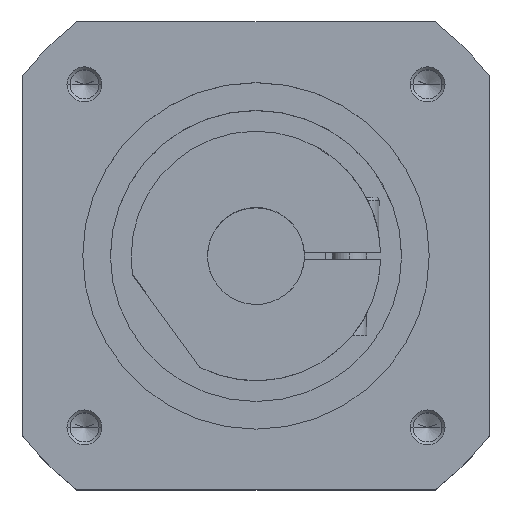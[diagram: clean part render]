
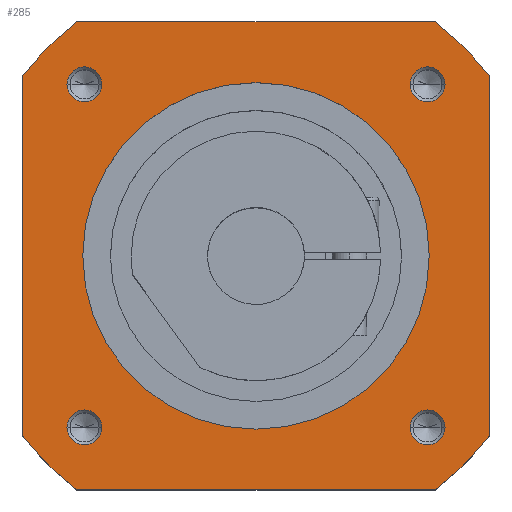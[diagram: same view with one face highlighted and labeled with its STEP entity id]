
A CAD part, top view. The second image highlights one B-rep face of the part: STEP entity #285.
In plain terms, the highlighted planar face has unit normal (0, 0, 1).
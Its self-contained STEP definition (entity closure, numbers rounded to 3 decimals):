
#66=FACE_BOUND('',#669,.T.);
#67=FACE_BOUND('',#670,.T.);
#68=FACE_BOUND('',#671,.T.);
#69=FACE_BOUND('',#672,.T.);
#70=FACE_BOUND('',#673,.T.);
#71=FACE_BOUND('',#674,.T.);
#139=PLANE('',#2934);
#285=ADVANCED_FACE('NONE',(#66,#67,#68,#69,#70,#71),#139,.T.);
#669=EDGE_LOOP('',(#1230,#1231,#1232,#1233,#1234,#1235,#1236,#1237));
#670=EDGE_LOOP('',(#1238,#1239));
#671=EDGE_LOOP('',(#1240,#1241));
#672=EDGE_LOOP('',(#1242,#1243));
#673=EDGE_LOOP('',(#1244,#1245));
#674=EDGE_LOOP('',(#1246,#1247));
#822=CIRCLE('',#2825,2.525);
#825=CIRCLE('',#2831,2.525);
#828=CIRCLE('',#2837,2.525);
#831=CIRCLE('',#2843,2.525);
#875=CIRCLE('',#2923,25.);
#876=CIRCLE('',#2925,42.5);
#877=CIRCLE('',#2926,42.5);
#878=CIRCLE('',#2927,42.5);
#879=CIRCLE('',#2928,42.5);
#880=CIRCLE('',#2929,25.);
#881=CIRCLE('',#2930,2.525);
#882=CIRCLE('',#2931,2.525);
#883=CIRCLE('',#2932,2.525);
#884=CIRCLE('',#2933,2.525);
#1230=ORIENTED_EDGE('',*,*,#2197,.T.);
#1231=ORIENTED_EDGE('',*,*,#2198,.T.);
#1232=ORIENTED_EDGE('',*,*,#2199,.T.);
#1233=ORIENTED_EDGE('',*,*,#2200,.T.);
#1234=ORIENTED_EDGE('',*,*,#2201,.T.);
#1235=ORIENTED_EDGE('',*,*,#2202,.F.);
#1236=ORIENTED_EDGE('',*,*,#2203,.T.);
#1237=ORIENTED_EDGE('',*,*,#2204,.F.);
#1238=ORIENTED_EDGE('',*,*,#2196,.F.);
#1239=ORIENTED_EDGE('',*,*,#2205,.F.);
#1240=ORIENTED_EDGE('',*,*,#2089,.F.);
#1241=ORIENTED_EDGE('',*,*,#2206,.F.);
#1242=ORIENTED_EDGE('',*,*,#2080,.F.);
#1243=ORIENTED_EDGE('',*,*,#2207,.F.);
#1244=ORIENTED_EDGE('',*,*,#2071,.F.);
#1245=ORIENTED_EDGE('',*,*,#2208,.F.);
#1246=ORIENTED_EDGE('',*,*,#2062,.F.);
#1247=ORIENTED_EDGE('',*,*,#2209,.F.);
#1818=VERTEX_POINT('',#4140);
#1820=VERTEX_POINT('',#4144);
#1825=VERTEX_POINT('',#4159);
#1827=VERTEX_POINT('',#4163);
#1832=VERTEX_POINT('',#4178);
#1834=VERTEX_POINT('',#4182);
#1839=VERTEX_POINT('',#4197);
#1841=VERTEX_POINT('',#4201);
#1911=VERTEX_POINT('',#4483);
#1912=VERTEX_POINT('',#4485);
#1913=VERTEX_POINT('',#4489);
#1914=VERTEX_POINT('',#4490);
#1915=VERTEX_POINT('',#4492);
#1916=VERTEX_POINT('',#4494);
#1917=VERTEX_POINT('',#4496);
#1918=VERTEX_POINT('',#4498);
#1919=VERTEX_POINT('',#4500);
#1920=VERTEX_POINT('',#4502);
#2062=EDGE_CURVE('NONE',#1820,#1818,#822,.T.);
#2071=EDGE_CURVE('NONE',#1827,#1825,#825,.T.);
#2080=EDGE_CURVE('NONE',#1834,#1832,#828,.T.);
#2089=EDGE_CURVE('NONE',#1841,#1839,#831,.T.);
#2196=EDGE_CURVE('NONE',#1912,#1911,#875,.T.);
#2197=EDGE_CURVE('NONE',#1913,#1914,#876,.T.);
#2198=EDGE_CURVE('NONE',#1914,#1915,#2536,.T.);
#2199=EDGE_CURVE('NONE',#1915,#1916,#877,.T.);
#2200=EDGE_CURVE('NONE',#1916,#1917,#2537,.T.);
#2201=EDGE_CURVE('NONE',#1917,#1918,#878,.T.);
#2202=EDGE_CURVE('NONE',#1919,#1918,#2538,.T.);
#2203=EDGE_CURVE('NONE',#1919,#1920,#879,.T.);
#2204=EDGE_CURVE('NONE',#1913,#1920,#2539,.T.);
#2205=EDGE_CURVE('NONE',#1911,#1912,#880,.T.);
#2206=EDGE_CURVE('NONE',#1839,#1841,#881,.T.);
#2207=EDGE_CURVE('NONE',#1832,#1834,#882,.T.);
#2208=EDGE_CURVE('NONE',#1825,#1827,#883,.T.);
#2209=EDGE_CURVE('NONE',#1818,#1820,#884,.T.);
#2536=LINE('',#4491,#2719);
#2537=LINE('',#4495,#2720);
#2538=LINE('',#4499,#2721);
#2539=LINE('',#4503,#2722);
#2719=VECTOR('',#3485,1.);
#2720=VECTOR('',#3488,1.);
#2721=VECTOR('',#3491,1.);
#2722=VECTOR('',#3494,1.);
#2825=AXIS2_PLACEMENT_3D('',#4145,#3206,#3207);
#2831=AXIS2_PLACEMENT_3D('',#4164,#3224,#3225);
#2837=AXIS2_PLACEMENT_3D('',#4183,#3242,#3243);
#2843=AXIS2_PLACEMENT_3D('',#4202,#3260,#3261);
#2923=AXIS2_PLACEMENT_3D('',#4486,#3479,#3480);
#2925=AXIS2_PLACEMENT_3D('',#4488,#3483,#3484);
#2926=AXIS2_PLACEMENT_3D('',#4493,#3486,#3487);
#2927=AXIS2_PLACEMENT_3D('',#4497,#3489,#3490);
#2928=AXIS2_PLACEMENT_3D('',#4501,#3492,#3493);
#2929=AXIS2_PLACEMENT_3D('',#4504,#3495,#3496);
#2930=AXIS2_PLACEMENT_3D('',#4505,#3497,#3498);
#2931=AXIS2_PLACEMENT_3D('',#4506,#3499,#3500);
#2932=AXIS2_PLACEMENT_3D('',#4507,#3501,#3502);
#2933=AXIS2_PLACEMENT_3D('',#4508,#3503,#3504);
#2934=AXIS2_PLACEMENT_3D('',#4509,#3505,#3506);
#3206=DIRECTION('',(0.,0.,1.));
#3207=DIRECTION('',(1.,0.,0.));
#3224=DIRECTION('',(0.,0.,1.));
#3225=DIRECTION('',(1.,0.,0.));
#3242=DIRECTION('',(0.,0.,1.));
#3243=DIRECTION('',(1.,0.,0.));
#3260=DIRECTION('',(0.,0.,1.));
#3261=DIRECTION('',(1.,0.,0.));
#3479=DIRECTION('',(0.,0.,1.));
#3480=DIRECTION('',(1.,0.,0.));
#3483=DIRECTION('',(0.,0.,1.));
#3484=DIRECTION('',(1.,0.,0.));
#3485=DIRECTION('',(0.,1.,0.));
#3486=DIRECTION('',(0.,0.,1.));
#3487=DIRECTION('',(1.,0.,0.));
#3488=DIRECTION('',(-1.,0.,0.));
#3489=DIRECTION('',(0.,0.,1.));
#3490=DIRECTION('',(1.,0.,0.));
#3491=DIRECTION('',(0.,1.,0.));
#3492=DIRECTION('',(0.,0.,1.));
#3493=DIRECTION('',(1.,0.,0.));
#3494=DIRECTION('',(-1.,0.,0.));
#3495=DIRECTION('',(0.,0.,1.));
#3496=DIRECTION('',(1.,0.,0.));
#3497=DIRECTION('',(0.,0.,1.));
#3498=DIRECTION('',(1.,0.,0.));
#3499=DIRECTION('',(0.,0.,1.));
#3500=DIRECTION('',(1.,0.,0.));
#3501=DIRECTION('',(0.,0.,1.));
#3502=DIRECTION('',(1.,0.,0.));
#3503=DIRECTION('',(0.,0.,1.));
#3504=DIRECTION('',(1.,0.,0.));
#3505=DIRECTION('',(0.,0.,1.));
#3506=DIRECTION('',(1.,0.,0.));
#4140=CARTESIAN_POINT('',(22.224,24.749,116.));
#4144=CARTESIAN_POINT('',(27.274,24.749,116.));
#4145=CARTESIAN_POINT('',(24.749,24.749,116.));
#4159=CARTESIAN_POINT('',(22.224,-24.749,116.));
#4163=CARTESIAN_POINT('',(27.274,-24.749,116.));
#4164=CARTESIAN_POINT('',(24.749,-24.749,116.));
#4178=CARTESIAN_POINT('',(-27.274,-24.749,116.));
#4182=CARTESIAN_POINT('',(-22.224,-24.749,116.));
#4183=CARTESIAN_POINT('',(-24.749,-24.749,116.));
#4197=CARTESIAN_POINT('',(-27.274,24.749,116.));
#4201=CARTESIAN_POINT('',(-22.224,24.749,116.));
#4202=CARTESIAN_POINT('',(-24.749,24.749,116.));
#4483=CARTESIAN_POINT('',(-25.,0.,116.));
#4485=CARTESIAN_POINT('',(25.,0.,116.));
#4486=CARTESIAN_POINT('',(0.,0.,116.));
#4488=CARTESIAN_POINT('',(0.,0.,116.));
#4489=CARTESIAN_POINT('',(25.83,-33.75,116.));
#4490=CARTESIAN_POINT('',(33.75,-25.83,116.));
#4491=CARTESIAN_POINT('',(33.75,0.,116.));
#4492=CARTESIAN_POINT('',(33.75,25.83,116.));
#4493=CARTESIAN_POINT('',(0.,0.,116.));
#4494=CARTESIAN_POINT('',(25.83,33.75,116.));
#4495=CARTESIAN_POINT('',(0.,33.75,116.));
#4496=CARTESIAN_POINT('',(-25.83,33.75,116.));
#4497=CARTESIAN_POINT('',(0.,0.,116.));
#4498=CARTESIAN_POINT('',(-33.75,25.83,116.));
#4499=CARTESIAN_POINT('',(-33.75,0.,116.));
#4500=CARTESIAN_POINT('',(-33.75,-25.83,116.));
#4501=CARTESIAN_POINT('',(0.,0.,116.));
#4502=CARTESIAN_POINT('',(-25.83,-33.75,116.));
#4503=CARTESIAN_POINT('',(0.,-33.75,116.));
#4504=CARTESIAN_POINT('',(0.,0.,116.));
#4505=CARTESIAN_POINT('',(-24.749,24.749,116.));
#4506=CARTESIAN_POINT('',(-24.749,-24.749,116.));
#4507=CARTESIAN_POINT('',(24.749,-24.749,116.));
#4508=CARTESIAN_POINT('',(24.749,24.749,116.));
#4509=CARTESIAN_POINT('',(0.,0.,116.));
